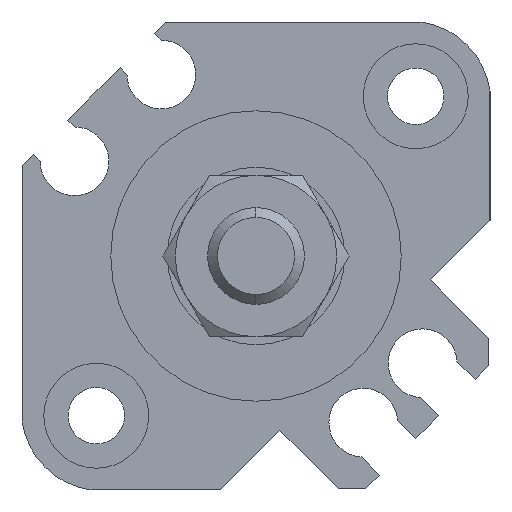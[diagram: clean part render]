
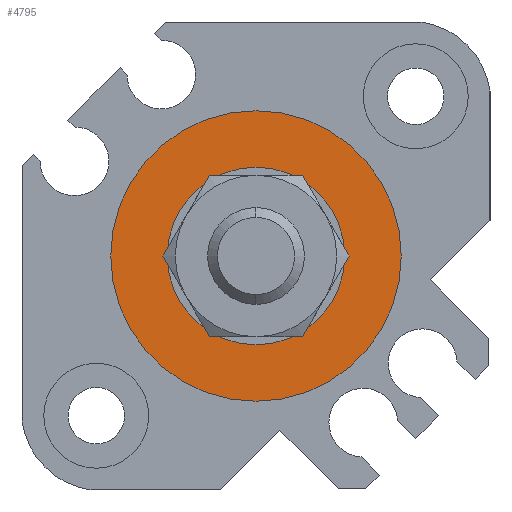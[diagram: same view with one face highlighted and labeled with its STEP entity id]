
A CAD part, left-side view. The second image highlights one B-rep face of the part: STEP entity #4795.
In plain terms, the highlighted planar face has unit normal (-1, 0, 0).
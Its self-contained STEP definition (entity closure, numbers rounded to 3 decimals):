
#259 = VERTEX_POINT ( 'NONE', #3278 ) ;
#461 = DIRECTION ( 'NONE',  ( 1., 0., 0. ) ) ;
#581 = EDGE_CURVE ( 'NONE', #259, #2693, #2308, .T. ) ;
#618 = CARTESIAN_POINT ( 'NONE',  ( 1.1, 0., 0. ) ) ;
#904 = ORIENTED_EDGE ( 'NONE', *, *, #1274, .F. ) ;
#1006 = EDGE_LOOP ( 'NONE', ( #904, #2030 ) ) ;
#1161 = VERTEX_POINT ( 'NONE', #2432 ) ;
#1236 = CARTESIAN_POINT ( 'NONE',  ( 1.1, 0., 0. ) ) ;
#1274 = EDGE_CURVE ( 'NONE', #2803, #1161, #4846, .T. ) ;
#1313 = DIRECTION ( 'NONE',  ( 1., 0., 0. ) ) ;
#1417 = ORIENTED_EDGE ( 'NONE', *, *, #3533, .T. ) ;
#1502 = DIRECTION ( 'NONE',  ( 1., 0., 0. ) ) ;
#1524 = CARTESIAN_POINT ( 'NONE',  ( 1.1, 0., 0. ) ) ;
#1602 = DIRECTION ( 'NONE',  ( 0., 0., -1. ) ) ;
#1915 = CIRCLE ( 'NONE', #3524, 5.5 ) ;
#2030 = ORIENTED_EDGE ( 'NONE', *, *, #4561, .F. ) ;
#2081 = DIRECTION ( 'NONE',  ( 0., 0., -1. ) ) ;
#2308 = CIRCLE ( 'NONE', #2990, 5.5 ) ;
#2339 = DIRECTION ( 'NONE',  ( 1., 0., 0. ) ) ;
#2432 = CARTESIAN_POINT ( 'NONE',  ( 1.1, 0., -9. ) ) ;
#2507 = CARTESIAN_POINT ( 'NONE',  ( 1.1, 0., 9. ) ) ;
#2693 = VERTEX_POINT ( 'NONE', #4454 ) ;
#2803 = VERTEX_POINT ( 'NONE', #2507 ) ;
#2947 = DIRECTION ( 'NONE',  ( 0., 1., 0. ) ) ;
#2990 = AXIS2_PLACEMENT_3D ( 'NONE', #618, #4325, #5127 ) ;
#3278 = CARTESIAN_POINT ( 'NONE',  ( 1.1, 0., 5.5 ) ) ;
#3414 = AXIS2_PLACEMENT_3D ( 'NONE', #3794, #1313, #2947 ) ;
#3477 = AXIS2_PLACEMENT_3D ( 'NONE', #5230, #2339, #1602 ) ;
#3524 = AXIS2_PLACEMENT_3D ( 'NONE', #1236, #461, #2081 ) ;
#3533 = EDGE_CURVE ( 'NONE', #2693, #259, #1915, .T. ) ;
#3794 = CARTESIAN_POINT ( 'NONE',  ( 1.1, 0., 0. ) ) ;
#3881 = DIRECTION ( 'NONE',  ( 0., 0., -1. ) ) ;
#4169 = ORIENTED_EDGE ( 'NONE', *, *, #581, .T. ) ;
#4174 = FACE_OUTER_BOUND ( 'NONE', #1006, .T. ) ;
#4216 = EDGE_LOOP ( 'NONE', ( #4169, #1417 ) ) ;
#4325 = DIRECTION ( 'NONE',  ( 1., 0., 0. ) ) ;
#4345 = CIRCLE ( 'NONE', #4602, 9. ) ;
#4454 = CARTESIAN_POINT ( 'NONE',  ( 1.1, 0., -5.5 ) ) ;
#4561 = EDGE_CURVE ( 'NONE', #1161, #2803, #4345, .T. ) ;
#4602 = AXIS2_PLACEMENT_3D ( 'NONE', #1524, #1502, #3881 ) ;
#4627 = PLANE ( 'NONE',  #3414 ) ;
#4795 = ADVANCED_FACE ( 'NONE', ( #4174, #4948 ), #4627, .F. ) ;
#4846 = CIRCLE ( 'NONE', #3477, 9. ) ;
#4948 = FACE_BOUND ( 'NONE', #4216, .T. ) ;
#5127 = DIRECTION ( 'NONE',  ( 0., 0., -1. ) ) ;
#5230 = CARTESIAN_POINT ( 'NONE',  ( 1.1, 0., 0. ) ) ;
